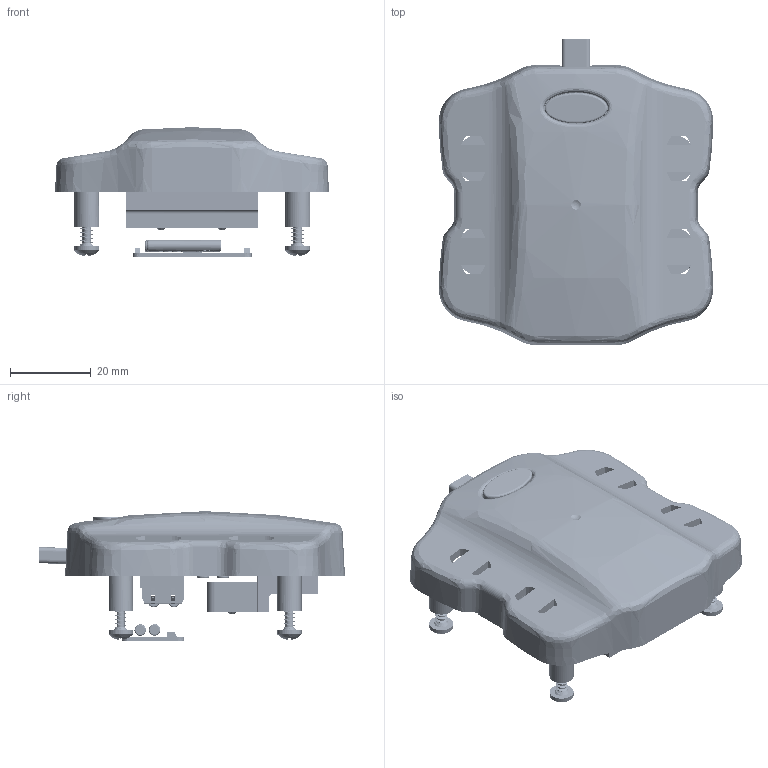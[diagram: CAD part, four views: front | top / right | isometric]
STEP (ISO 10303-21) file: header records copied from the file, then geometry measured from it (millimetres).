
FILE_DESCRIPTION(/* description */ (''),/* implementation_level */ '2;1');
FILE_NAME(/* name */ '2.stp',/* time_stamp */ '2023-04-15T17:02:30+08:00',/* author */ (''),/* organization */ (''),/* preprocessor_version */ 'ST-DEVELOPER v16.7',/* originating_system */ 'SIEMENS PLM Software NX 12.0',/* authorisation */ '');
FILE_SCHEMA (('AUTOMOTIVE_DESIGN { 1 0 10303 214 3 1 1 1 }'));
Length unit declared in the file: millimetre
Products named in the file (1): 2
Bounding box: 67.97 x 75.88 x 32.04 mm (x, y, z)
Volume: 30373.6 mm3; surface area: 31547.8 mm2
Topology: 11 solids, 22 shells, 10403 faces, 28040 edges, 17782 vertices
Faces by surface type: plane 8298, cylinder 1240, bspline 549, torus 103, extrusion 82, cone 71, sphere 60
Full cylindrical faces by diameter (mm): 0.152 x10, 0.413 x2, 0.467 x4, 0.6 x1, 0.767 x4, 0.833 x2, 0.9 x7, 1.05 x4, 1.8 x3, 2.046 x8, 2.1 x4, 2.2 x2, 2.8 x2, 2.862 x4, 3 x8, 4.2 x2, 6 x8, 11.44 x2, 12 x4
Entity records: 419356 total; most frequent: CARTESIAN_POINT 106577, ORIENTED_EDGE 55316, DIRECTION 48724, EDGE_CURVE 27658, VECTOR 23392, LINE 23310, VERTEX_POINT 17637, AXIS2_PLACEMENT_3D 12666
